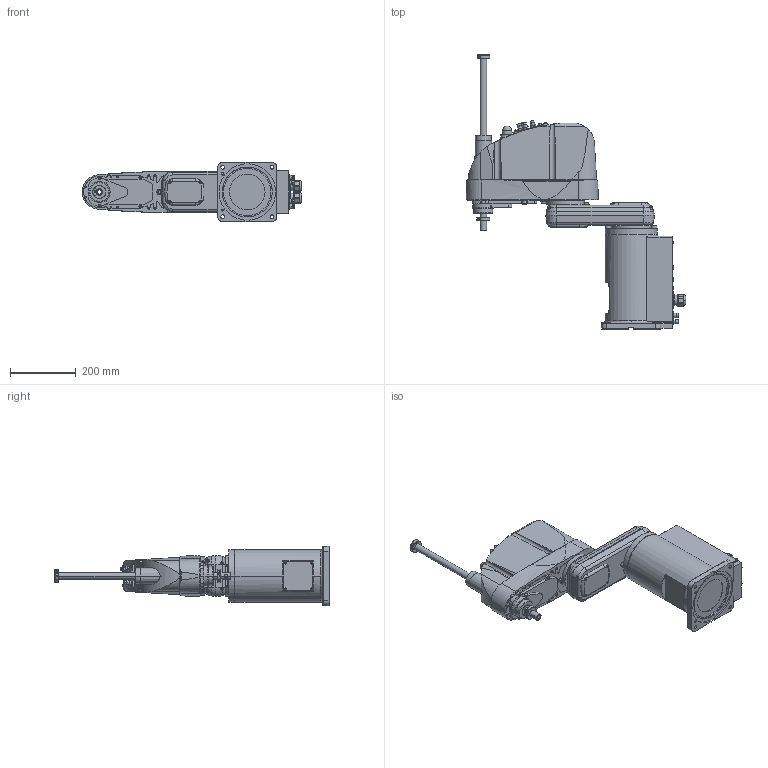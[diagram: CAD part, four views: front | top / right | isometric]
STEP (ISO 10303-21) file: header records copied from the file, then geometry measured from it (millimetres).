
FILE_DESCRIPTION( ( '' ), '1' );
FILE_NAME( '//expscmdclustefs.cadenas.external/client_exchange/iodir/jobs/output/wkb51513306_no0/STEP/G6_453S_2_14b.stp', '2012-11-22T15:59:15', ( '' ), ( '' ), ' ', ' ', ' ' );
FILE_SCHEMA( ( 'automotive_design' ) );
Length unit declared in the file: millimetre
Products named in the file (4): 1; 2; 3; 4
Bounding box: 667.5 x 834 x 180 mm (x, y, z)
Volume: 19256042.2 mm3; surface area: 853391.9 mm2
Topology: 4 solids, 4 shells, 1576 faces, 3859 edges, 2484 vertices
Faces by surface type: plane 789, cylinder 533, cone 194, torus 59, sphere 1
Entity records: 93192 total; most frequent: CARTESIAN_POINT 10813, DIRECTION 8240, STYLED_ITEM 7897, PRESENTATION_STYLE_ASSIGNMENT 7897, COLOUR_RGB 7897, ORIENTED_EDGE 7666, EDGE_CURVE 3833, CURVE_STYLE 3833
